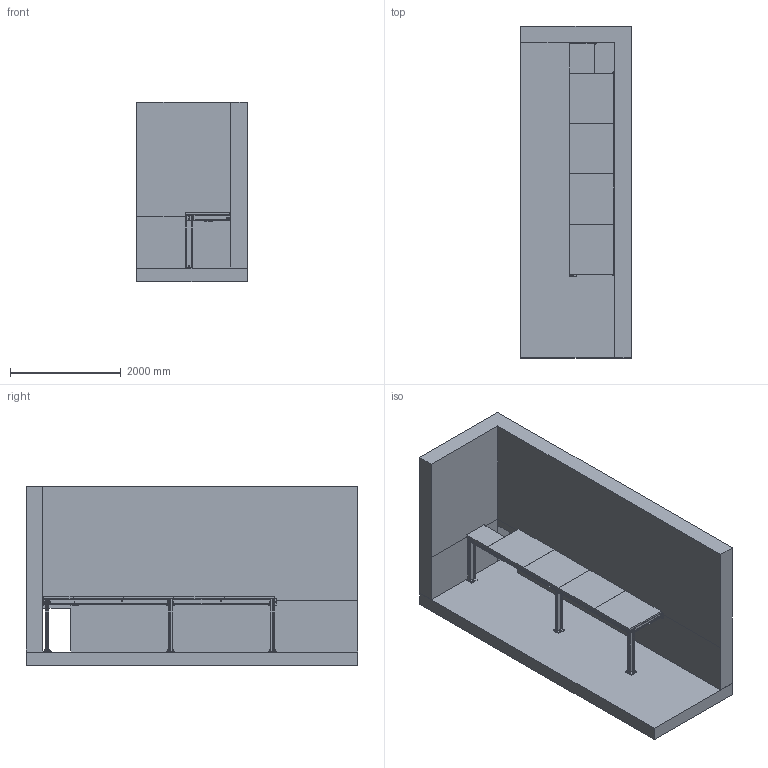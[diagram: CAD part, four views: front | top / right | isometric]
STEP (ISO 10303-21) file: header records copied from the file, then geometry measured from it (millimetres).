
FILE_DESCRIPTION(('TFLEX Exchange Step'),'2;1');
FILE_NAME('as_gray_1.stp', '2026-11-06T21:19:18+01:00',('User'),('Unknown organisation'),'TFLEX Exchange 2021.2','T-FLEX CAD','Unknown authorisation');
FILE_SCHEMA( ('AUTOMOTIVE_DESIGN { 1 0 10303 214 1 1 1 1 }') );
Length unit declared in the file: millimetre
Products named in the file (137): Modellbereich Buehne Loeschgas EnBW; Ohne Position - Blech t=250 mm - C25/30 - 2000 mm - 7500.00 kg; Ohne Position - Blech t=2000 mm - C25/30 - 6000 mm - 87988.68 kg; Ohne Position - IPE 100 - S235JR - 672 mm - 5.22 kg/St - 9x; Ohne Position - IPE 80 - S235JR - 615 mm - 3.59 kg/St - 2x; Ohne Position - IPE 120 - S235JR - 945 mm - 9.49 kg/St - 3x; Ohne Position - Sonderteil - 140 mm - 28x; Ohne Position - Blech t=10 mm - S235JR - 140 mm - 1.54 kg/St - 25x; Ohne Position - Blech t=5 mm - S235JR - 140 mm - 0.77 kg/St - 3x; Ohne Position - Blech t=2 mm - S235JR - 140 mm - 0.31 kg/St - 3x; Ohne Positionsnummer; Ohne Position - Blech t=40 mm - S235JR - 440 mm - 7.05 kg/St - 5x
Assembly tree (136 placements, depth 2):
  Modellbereich Buehne Loeschgas EnBW
    Ohne Position - Blech t=250 mm - C25/30 - 2000 mm - 7500.00 kg
    Ohne Position - Blech t=2000 mm - C25/30 - 6000 mm - 87988.68 kg
    Ohne Position - IPE 100 - S235JR - 672 mm - 5.22 kg/St - 9x
    Ohne Position - IPE 100 - S235JR - 672 mm - 5.22 kg/St - 9x
    Ohne Position - IPE 100 - S235JR - 672 mm - 5.22 kg/St - 9x
    Ohne Position - IPE 100 - S235JR - 672 mm - 5.22 kg/St - 9x
    Ohne Position - IPE 100 - S235JR - 672 mm - 5.22 kg/St - 9x
    Ohne Position - IPE 100 - S235JR - 672 mm - 5.22 kg/St - 9x
    Ohne Position - IPE 100 - S235JR - 672 mm - 5.22 kg/St - 9x
    Ohne Position - IPE 100 - S235JR - 672 mm - 5.22 kg/St - 9x
    Ohne Position - IPE 100 - S235JR - 672 mm - 5.22 kg/St - 9x
    Ohne Position - IPE 80 - S235JR - 615 mm - 3.59 kg/St - 2x
    Ohne Position - IPE 80 - S235JR - 615 mm - 3.59 kg/St - 2x
    Ohne Position - IPE 120 - S235JR - 945 mm - 9.49 kg/St - 3x
    Ohne Position - IPE 120 - S235JR - 945 mm - 9.49 kg/St - 3x
    Ohne Position - IPE 120 - S235JR - 945 mm - 9.49 kg/St - 3x
    Ohne Position - Sonderteil - 140 mm - 28x
    Ohne Position - Sonderteil - 140 mm - 28x
    Ohne Position - Sonderteil - 140 mm - 28x
    Ohne Position - Sonderteil - 140 mm - 28x
    Ohne Position - Sonderteil - 140 mm - 28x
    Ohne Position - Sonderteil - 140 mm - 28x
    Ohne Position - Sonderteil - 140 mm - 28x
    Ohne Position - Sonderteil - 140 mm - 28x
    Ohne Position - Sonderteil - 140 mm - 28x
    Ohne Position - Sonderteil - 140 mm - 28x
    Ohne Position - Sonderteil - 140 mm - 28x
    Ohne Position - Sonderteil - 140 mm - 28x
    Ohne Position - Sonderteil - 140 mm - 28x
    Ohne Position - Sonderteil - 140 mm - 28x
    Ohne Position - Sonderteil - 140 mm - 28x
    Ohne Position - Sonderteil - 140 mm - 28x
    Ohne Position - Sonderteil - 140 mm - 28x
    Ohne Position - Sonderteil - 140 mm - 28x
    Ohne Position - Sonderteil - 140 mm - 28x
    Ohne Position - Sonderteil - 140 mm - 28x
    Ohne Position - Sonderteil - 140 mm - 28x
    Ohne Position - Sonderteil - 140 mm - 28x
    Ohne Position - Sonderteil - 140 mm - 28x
    Ohne Position - Sonderteil - 140 mm - 28x
    Ohne Position - Sonderteil - 140 mm - 28x
    Ohne Position - Sonderteil - 140 mm - 28x
    Ohne Position - Sonderteil - 140 mm - 28x
    Ohne Position - Sonderteil - 140 mm - 28x
    Ohne Position - Sonderteil - 140 mm - 28x
    Ohne Position - Sonderteil - 140 mm - 28x
    Ohne Position - Sonderteil - 140 mm - 28x
    Ohne Position - Sonderteil - 140 mm - 28x
    Ohne Position - Sonderteil - 140 mm - 28x
    Ohne Position - Sonderteil - 140 mm - 28x
    Ohne Position - Sonderteil - 140 mm - 28x
    Ohne Position - Sonderteil - 140 mm - 28x
    Ohne Position - Sonderteil - 140 mm - 28x
    Ohne Position - Sonderteil - 140 mm - 28x
    Ohne Position - Sonderteil - 140 mm - 28x
    Ohne Position - Sonderteil - 140 mm - 28x
    Ohne Position - Sonderteil - 140 mm - 28x
    Ohne Position - Sonderteil - 140 mm - 28x
    Ohne Position - Blech t=10 mm - S235JR - 140 mm - 1.54 kg/St - 25x
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Bounding box: 2000 x 6000 x 3250 mm (x, y, z)
Volume: 9952930996.7 mm3; surface area: 94104208.3 mm2
Topology: 136 solids, 136 shells, 1998 faces, 4754 edges, 3238 vertices
Faces by surface type: plane 1463, cylinder 507, cone 28
Full cylindrical faces by diameter (mm): 8 x24, 10.002 x24, 12 x88, 13 x14, 14.002 x60, 16 x24, 16.002 x14, 24 x74, 32.002 x5
Entity records: 146063 total; most frequent: CARTESIAN_POINT 98348, ORIENTED_EDGE 9088, DIRECTION 8858, EDGE_CURVE 4544, VERTEX_POINT 3238, VECTOR 3100, LINE 3100, AXIS2_PLACEMENT_3D 2879
